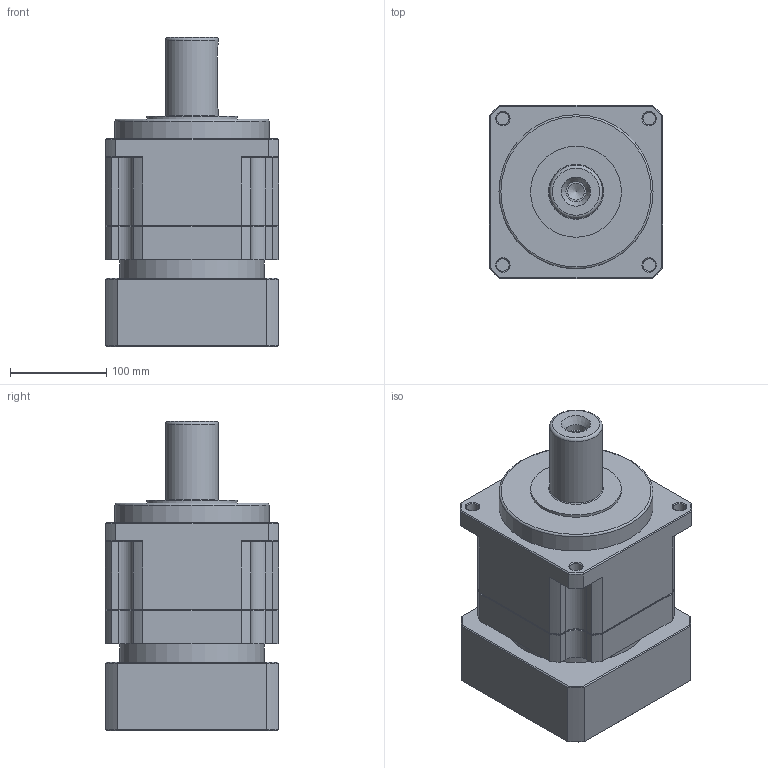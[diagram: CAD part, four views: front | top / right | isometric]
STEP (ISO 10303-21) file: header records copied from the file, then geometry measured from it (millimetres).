
FILE_DESCRIPTION(/* description */ (''),/* implementation_level */ '2;1');
FILE_NAME(/* name */ 'tb180-L1-42-114.3-200-M12-114-3.stp',/* time_stamp */ '2020-11-24T16:25:31+08:00',/* author */ (''),/* organization */ (''),/* preprocessor_version */ 'ST-DEVELOPER v16',/* originating_system */ 'SIEMENS PLM Software NX 10.0',/* authorisation */ '');
FILE_SCHEMA (('CONFIG_CONTROL_DESIGN'));
Length unit declared in the file: millimetre
Products named in the file (1): _model292
Bounding box: 180 x 180 x 321 mm (x, y, z)
Volume: 6213809.5 mm3; surface area: 427489.1 mm2
Topology: 4 solids, 4 shells, 312 faces, 756 edges, 468 vertices
Faces by surface type: plane 121, cylinder 92, cone 92, torus 7
Full cylindrical faces by diameter (mm): 2.5 x1, 6.8 x4, 8.5 x5, 9 x6, 10.3 x4, 10.5 x1, 11 x4, 13 x4, 15 x6, 17.5 x2, 21 x1, 21.47 x1, 42 x1, 55 x1, 94.5 x1, 110 x1, 114.3 x1, 150 x2, 160 x1
Entity records: 8723 total; most frequent: CARTESIAN_POINT 1795, DIRECTION 1447, ORIENTED_EDGE 1258, EDGE_CURVE 629, AXIS2_PLACEMENT_3D 590, EDGE_LOOP 457, VERTEX_POINT 448, ADVANCED_FACE 312
